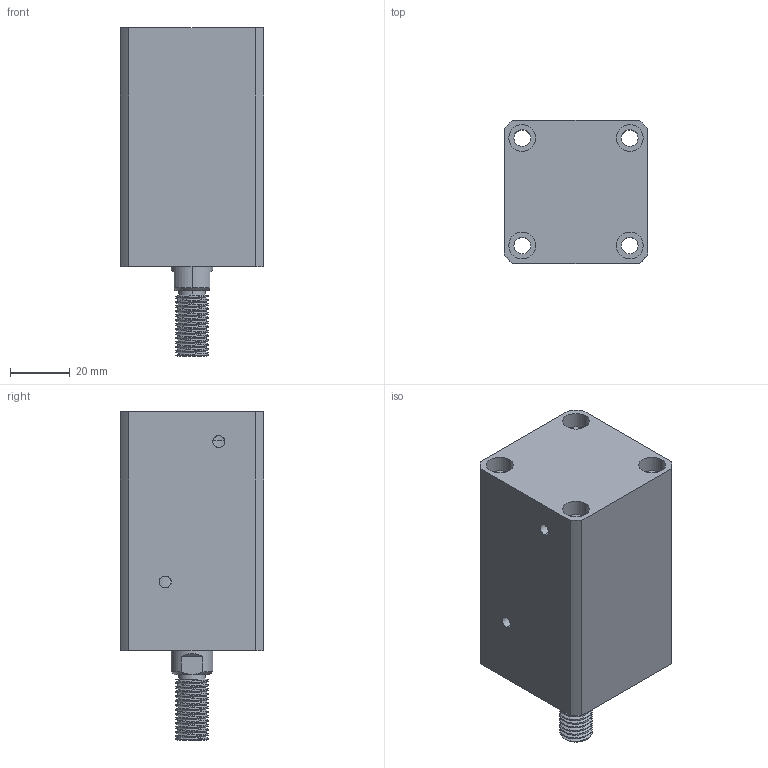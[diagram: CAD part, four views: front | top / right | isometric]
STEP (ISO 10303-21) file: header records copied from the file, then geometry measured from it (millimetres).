
FILE_DESCRIPTION (( 'STEP AP214' ), '1' );
FILE_NAME ('chtb-sdma25x35w_asm.STEP', '2018-05-22T07:34:29', ( 'Windows' ), ( 'Microsoft' ), 'SwSTEP 2.0', 'SolidWorks 2015', '' );
FILE_SCHEMA (( 'AUTOMOTIVE_DESIGN' ));
Length unit declared in the file: millimetre
Products named in the file (4): CHTB-SDMA25X35WHSG; CHTB-SDMA25X35NBT; CHTB-25QG; chtb-sdma25x35w_asm
Assembly tree (3 placements, depth 2):
  chtb-sdma25x35w_asm
    CHTB-25QG
    CHTB-SDMA25X35NBT
    CHTB-SDMA25X35WHSG
Bounding box: 48 x 48 x 110 mm (x, y, z)
Volume: 162872.2 mm3; surface area: 43930.2 mm2
Topology: 3 solids, 3 shells, 177 faces, 478 edges, 324 vertices
Faces by surface type: cylinder 118, plane 38, bspline 12, cone 9
Entity records: 10503 total; most frequent: CARTESIAN_POINT 6155, ORIENTED_EDGE 948, DIRECTION 775, EDGE_CURVE 474, VERTEX_POINT 324, AXIS2_PLACEMENT_3D 312, EDGE_LOOP 216, FACE_OUTER_BOUND 177
